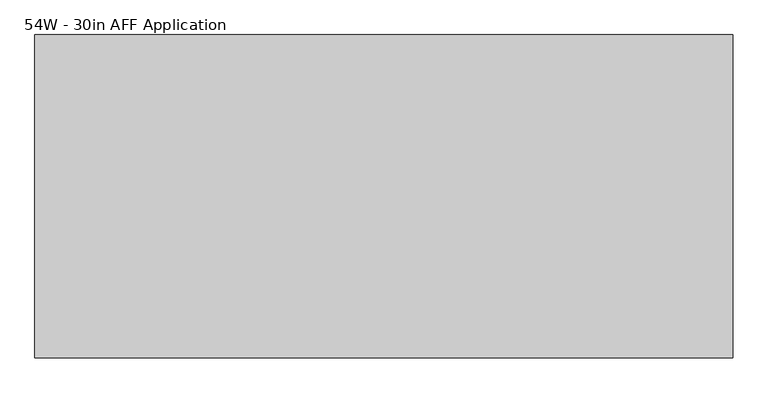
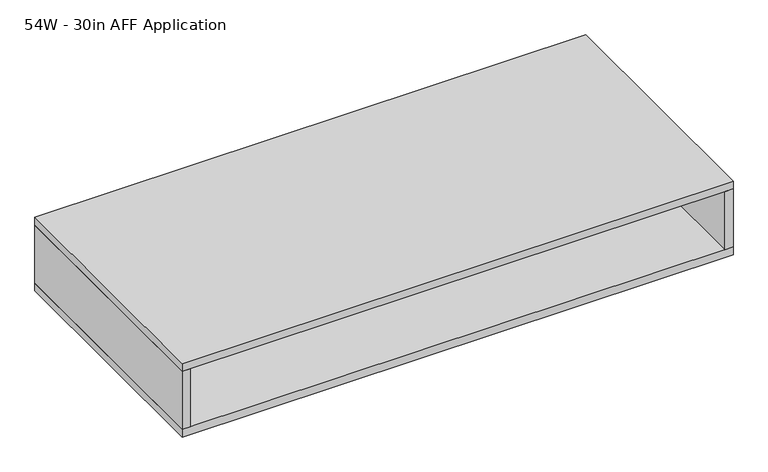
"""IFC4 building model written with IfcOpenShell, lengths in millimetres: furniture geometry, Steelcase - Duo Storage - For Use with Top Cap Mounted Storage - Slim : 54W - 30in AFF Application."""

from ifc_helpers import new_model, si_unit, frame, origin, place, context, project, spatial, polyline, outline, extrude, source, transform, mapped, element, save


def furniture_54w_30in_aff_application_22918827(model_context):
    return source(origin(), model_context, "Body", "SweptSolid", [
        extrude(outline(polyline([(1351.2799516, 317.4999523), (1371.6, 317.4999523), (1371.6, -317.5000477), (1351.2799516, -317.5000477), (1351.2799516, 317.4999523)])), frame((0.0, 0.0, 771.1693517), z_axis=(0.0, 0.0, 1.0), x_axis=(1.0, 0.0, 0.0)), (0.0, 0.0, 1.0), 152.6539882),
        extrude(outline(polyline([(1371.6, 317.4999523), (1371.6, -317.5000477), (0.0, -317.5000477), (0.0, 317.4999523), (1371.6, 317.4999523)])), frame((0.0, 0.0, 923.8233399), z_axis=(0.0, 0.0, 1.0), x_axis=(1.0, 0.0, 0.0)), (0.0, 0.0, 1.0), 20.3200326),
        extrude(outline(polyline([(1351.2799516, 11.303), (1351.2799516, -11.303), (20.3199129, -11.303), (20.3199129, 11.303), (1351.2799516, 11.303)])), frame((0.0, 0.0, 771.1693517), z_axis=(0.0, 0.0, 1.0), x_axis=(1.0, 0.0, 0.0)), (0.0, 0.0, 1.0), 152.6539882),
        extrude(outline(polyline([(20.3199129, 317.4999523), (20.3199129, -317.5000477), (0.0, -317.5000477), (0.0, 317.4999523), (20.3199129, 317.4999523)])), frame((0.0, 0.0, 771.1693517), z_axis=(0.0, 0.0, 1.0), x_axis=(1.0, 0.0, 0.0)), (0.0, 0.0, 1.0), 152.6539882),
        extrude(outline(polyline([(1371.6, 317.4999523), (1371.6, -317.5000477), (0.0, -317.5000477), (0.0, 317.4999523), (1371.6, 317.4999523)])), frame((0.0, 0.0, 750.8493725), z_axis=(0.0, 0.0, 1.0), x_axis=(1.0, 0.0, 0.0)), (0.0, 0.0, 1.0), 20.3199793),
    ])


if __name__ == "__main__":
    model = new_model("IFC4")
    model_context = context("Model", 3, world=origin())
    ifc_project = project(units=[si_unit("LENGTHUNIT", "METRE", prefix="MILLI")], contexts=[model_context])
    site = spatial("IfcSite", under=ifc_project)
    building = spatial("IfcBuilding", under=site)
    placement = place(None, origin())
    furniture_54w_30in_aff_application_shape = furniture_54w_30in_aff_application_22918827(model_context)
    element("IfcFurniture", 1, ObjectType="Steelcase - Duo Storage - For Use with Top Cap Mounted Storage - Slim : 54W - 30in AFF Application", at=placement, inside=building, context=model_context, shape_type="MappedRepresentation", body=[
        mapped(furniture_54w_30in_aff_application_shape, transform((0.0, 0.0, 0.0), x_axis=(1.0, 0.0, 0.0), y_axis=(0.0, 1.0, 0.0), z_axis=(0.0, 0.0, 1.0))),
    ])
    save(model, "model.ifc")
